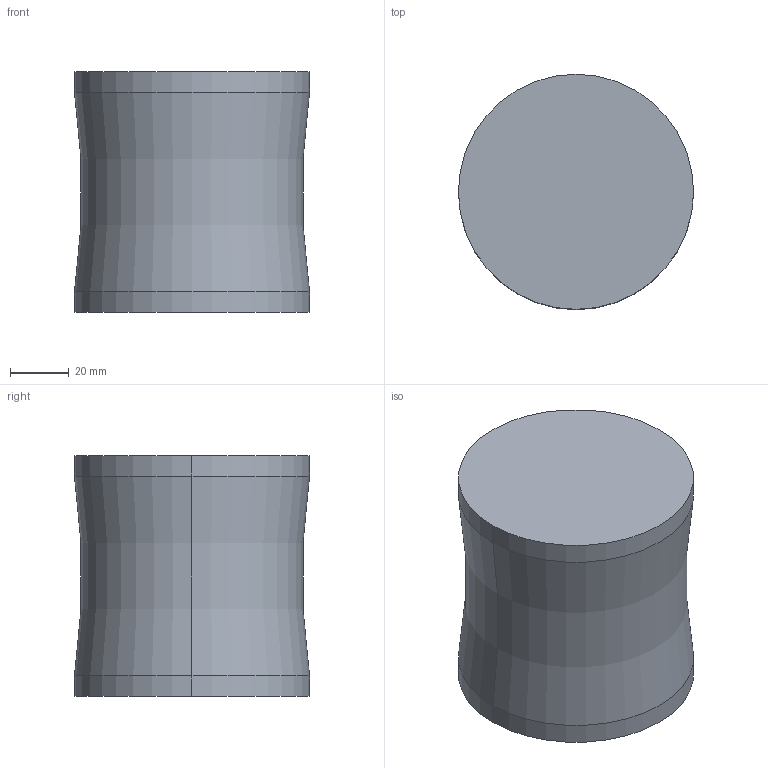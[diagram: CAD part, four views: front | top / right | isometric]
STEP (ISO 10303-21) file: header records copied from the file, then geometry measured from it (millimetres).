
FILE_DESCRIPTION(/* description */ (''),/* implementation_level */ '2;1');
FILE_NAME(/* name */ '3d_ex8080_06512_r00.stp',/* time_stamp */ '2011-01-10T14:15:38+09:00',/* author */ ('MISUMI'),/* organization */ (''),/* preprocessor_version */ 'ST-DEVELOPER v11',/* originating_system */ 'UGS - NX 5.0',/* authorisation */ '');
FILE_SCHEMA (('CONFIG_CONTROL_DESIGN'));
Length unit declared in the file: millimetre
Products named in the file (1): 3d_ex8080_06512_r00
Bounding box: 80 x 80 x 82 mm (x, y, z)
Volume: 384375.6 mm3; surface area: 30009.1 mm2
Topology: 1 solids, 1 shells, 8 faces, 14 edges, 8 vertices
Faces by surface type: cylinder 4, plane 2, torus 2
Entity records: 282 total; most frequent: DIRECTION 42, CARTESIAN_POINT 31, ORIENTED_EDGE 28, AXIS2_PLACEMENT_3D 19, EDGE_CURVE 14, CIRCLE 10, ADVANCED_FACE 8, FACE_OUTER_BOUND 8
